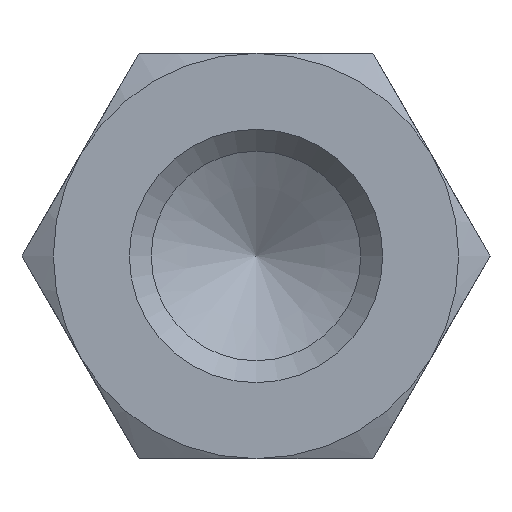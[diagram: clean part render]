
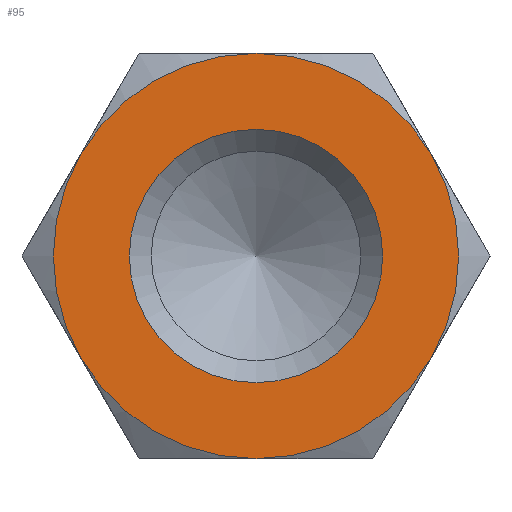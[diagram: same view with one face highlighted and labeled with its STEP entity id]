
A CAD part, left-side view. The second image highlights one B-rep face of the part: STEP entity #95.
In plain terms, the highlighted planar face has unit normal (-1, 0, 0).
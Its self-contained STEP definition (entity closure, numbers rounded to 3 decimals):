
#95 = ADVANCED_FACE( '', ( #147, #148 ), #149, .F. );
#147 = FACE_OUTER_BOUND( '', #206, .T. );
#148 = FACE_BOUND( '', #207, .T. );
#149 = PLANE( '', #208 );
#206 = EDGE_LOOP( '', ( #356, #357, #358, #359, #360, #361 ) );
#207 = EDGE_LOOP( '', ( #362 ) );
#208 = AXIS2_PLACEMENT_3D( '', #363, #364, #365 );
#356 = ORIENTED_EDGE( '', *, *, #440, .F. );
#357 = ORIENTED_EDGE( '', *, *, #425, .F. );
#358 = ORIENTED_EDGE( '', *, *, #441, .F. );
#359 = ORIENTED_EDGE( '', *, *, #437, .F. );
#360 = ORIENTED_EDGE( '', *, *, #442, .F. );
#361 = ORIENTED_EDGE( '', *, *, #443, .F. );
#362 = ORIENTED_EDGE( '', *, *, #439, .T. );
#363 = CARTESIAN_POINT( '', ( -80., 0., 0. ) );
#364 = DIRECTION( '', ( 1., 0., 0. ) );
#365 = DIRECTION( '', ( 0., 0., -1. ) );
#425 = EDGE_CURVE( '', #495, #493, #497, .T. );
#437 = EDGE_CURVE( '', #447, #506, #513, .T. );
#439 = EDGE_CURVE( '', #516, #516, #517, .T. );
#440 = EDGE_CURVE( '', #493, #486, #518, .T. );
#441 = EDGE_CURVE( '', #506, #495, #519, .T. );
#442 = EDGE_CURVE( '', #481, #447, #520, .T. );
#443 = EDGE_CURVE( '', #486, #481, #521, .T. );
#447 = VERTEX_POINT( '', #525 );
#481 = VERTEX_POINT( '', #595 );
#486 = VERTEX_POINT( '', #611 );
#493 = VERTEX_POINT( '', #632 );
#495 = VERTEX_POINT( '', #637 );
#497 = CIRCLE( '', #644, 4. );
#506 = VERTEX_POINT( '', #670 );
#513 = CIRCLE( '', #701, 4. );
#516 = VERTEX_POINT( '', #704 );
#517 = CIRCLE( '', #705, 2.5 );
#518 = CIRCLE( '', #706, 4. );
#519 = CIRCLE( '', #707, 4. );
#520 = CIRCLE( '', #708, 4. );
#521 = CIRCLE( '', #709, 4. );
#525 = CARTESIAN_POINT( '', ( -80., -3.464, 2. ) );
#595 = CARTESIAN_POINT( '', ( -80., 0., 4. ) );
#611 = CARTESIAN_POINT( '', ( -80., 3.464, 2. ) );
#632 = CARTESIAN_POINT( '', ( -80., 3.464, -2. ) );
#637 = CARTESIAN_POINT( '', ( -80., 0., -4. ) );
#644 = AXIS2_PLACEMENT_3D( '', #744, #745, #746 );
#670 = CARTESIAN_POINT( '', ( -80., -3.464, -2. ) );
#701 = AXIS2_PLACEMENT_3D( '', #749, #750, #751 );
#704 = CARTESIAN_POINT( '', ( -80., 0., -2.5 ) );
#705 = AXIS2_PLACEMENT_3D( '', #755, #756, #757 );
#706 = AXIS2_PLACEMENT_3D( '', #758, #759, #760 );
#707 = AXIS2_PLACEMENT_3D( '', #761, #762, #763 );
#708 = AXIS2_PLACEMENT_3D( '', #764, #765, #766 );
#709 = AXIS2_PLACEMENT_3D( '', #767, #768, #769 );
#744 = CARTESIAN_POINT( '', ( -80., 0., 0. ) );
#745 = DIRECTION( '', ( 1., 0., 0. ) );
#746 = DIRECTION( '', ( 0., 0., -1. ) );
#749 = CARTESIAN_POINT( '', ( -80., 0., 0. ) );
#750 = DIRECTION( '', ( 1., 0., 0. ) );
#751 = DIRECTION( '', ( 0., 0., -1. ) );
#755 = CARTESIAN_POINT( '', ( -80., 0., 0. ) );
#756 = DIRECTION( '', ( 1., 0., 0. ) );
#757 = DIRECTION( '', ( 0., 0., -1. ) );
#758 = CARTESIAN_POINT( '', ( -80., 0., 0. ) );
#759 = DIRECTION( '', ( 1., 0., 0. ) );
#760 = DIRECTION( '', ( 0., 0., -1. ) );
#761 = CARTESIAN_POINT( '', ( -80., 0., 0. ) );
#762 = DIRECTION( '', ( 1., 0., 0. ) );
#763 = DIRECTION( '', ( 0., 0., -1. ) );
#764 = CARTESIAN_POINT( '', ( -80., 0., 0. ) );
#765 = DIRECTION( '', ( 1., 0., 0. ) );
#766 = DIRECTION( '', ( 0., 0., -1. ) );
#767 = CARTESIAN_POINT( '', ( -80., 0., 0. ) );
#768 = DIRECTION( '', ( 1., 0., 0. ) );
#769 = DIRECTION( '', ( 0., 0., -1. ) );
